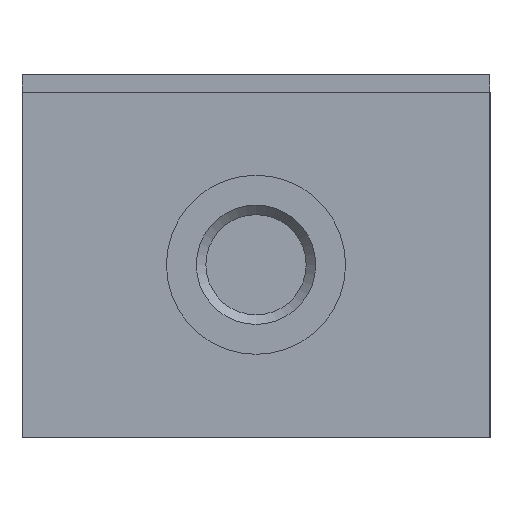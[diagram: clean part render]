
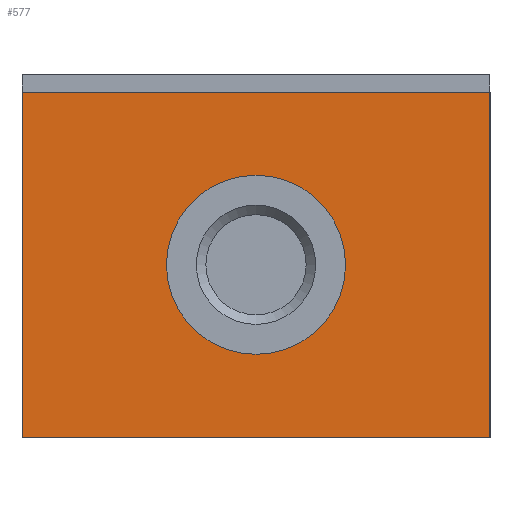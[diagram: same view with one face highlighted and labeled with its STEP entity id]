
A CAD part, left-side view. The second image highlights one B-rep face of the part: STEP entity #577.
In plain terms, the highlighted planar face has unit normal (-1, 0, 0).
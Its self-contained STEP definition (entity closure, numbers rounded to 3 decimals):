
#279=CARTESIAN_POINT('',(-55.0,0.,-8.595));
#280=VERTEX_POINT('',#279);
#281=CARTESIAN_POINT('',(-55.0,0.,-16.25));
#282=DIRECTION('',(1.0,0.0,0.0));
#283=DIRECTION('',(0.0,0.0,-1.0));
#284=AXIS2_PLACEMENT_3D('',#281,#282,#283);
#285=CIRCLE('',#284,7.655);
#286=EDGE_CURVE('',#280,#280,#285,.T.);
#444=CARTESIAN_POINT('',(-55.0,20.,-1.5));
#445=VERTEX_POINT('',#444);
#446=CARTESIAN_POINT('',(-55.0,-20.,-1.5));
#447=VERTEX_POINT('',#446);
#448=CARTESIAN_POINT('',(-55.0,20.,-1.5));
#449=DIRECTION('',(0.0,-1.0,0.0));
#450=VECTOR('',#449,40.);
#451=LINE('',#448,#450);
#452=EDGE_CURVE('',#445,#447,#451,.T.);
#484=CARTESIAN_POINT('',(-55.0,-20.,-31.));
#485=VERTEX_POINT('',#484);
#486=CARTESIAN_POINT('',(-55.0,-20.,-1.5));
#487=DIRECTION('',(0.0,0.0,-1.0));
#488=VECTOR('',#487,29.5);
#489=LINE('',#486,#488);
#490=EDGE_CURVE('',#447,#485,#489,.T.);
#515=CARTESIAN_POINT('',(-55.0,20.,-31.));
#516=VERTEX_POINT('',#515);
#517=CARTESIAN_POINT('',(-55.0,-20.,-31.));
#518=DIRECTION('',(0.0,1.0,0.0));
#519=VECTOR('',#518,40.);
#520=LINE('',#517,#519);
#521=EDGE_CURVE('',#485,#516,#520,.T.);
#546=CARTESIAN_POINT('',(-55.0,20.,-31.));
#547=DIRECTION('',(0.0,0.0,1.0));
#548=VECTOR('',#547,29.5);
#549=LINE('',#546,#548);
#550=EDGE_CURVE('',#516,#445,#549,.T.);
#563=CARTESIAN_POINT('',(-55.0,0.,-16.25));
#564=DIRECTION('',(1.0,0.0,0.0));
#565=DIRECTION('',(0.0,0.0,-1.0));
#566=AXIS2_PLACEMENT_3D('',#563,#564,#565);
#567=PLANE('',#566);
#568=ORIENTED_EDGE('',*,*,#452,.F.);
#569=ORIENTED_EDGE('',*,*,#550,.F.);
#570=ORIENTED_EDGE('',*,*,#521,.F.);
#571=ORIENTED_EDGE('',*,*,#490,.F.);
#572=EDGE_LOOP('',(#568,#569,#570,#571));
#573=FACE_OUTER_BOUND('',#572,.T.);
#574=ORIENTED_EDGE('',*,*,#286,.T.);
#575=EDGE_LOOP('',(#574));
#576=FACE_BOUND('',#575,.T.);
#577=ADVANCED_FACE('',(#573,#576),#567,.F.);
